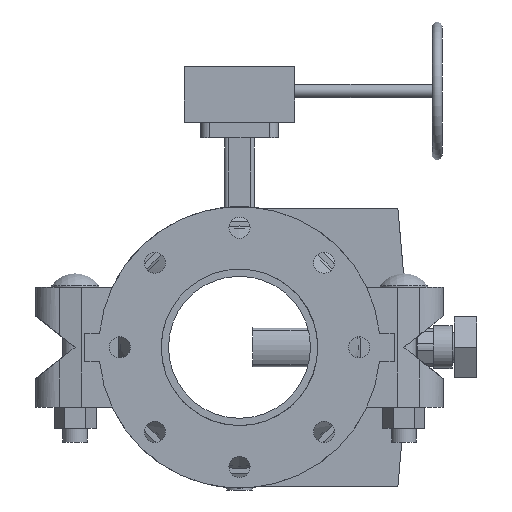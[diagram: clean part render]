
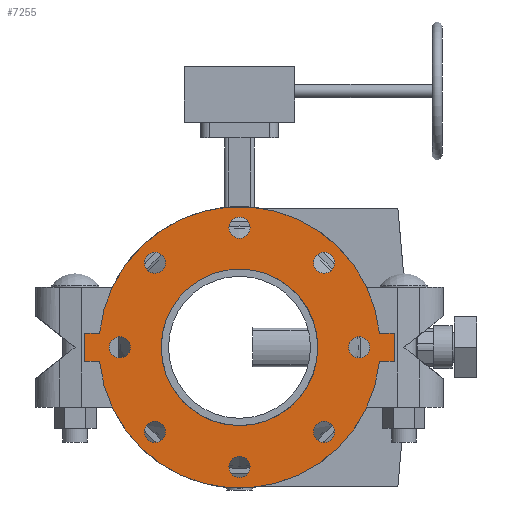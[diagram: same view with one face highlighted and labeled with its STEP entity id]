
A CAD part, front view. The second image highlights one B-rep face of the part: STEP entity #7255.
In plain terms, the highlighted planar face has unit normal (0, -1, 0) as drawn and (0, 0, -1) by its records, which use the part's own axes.
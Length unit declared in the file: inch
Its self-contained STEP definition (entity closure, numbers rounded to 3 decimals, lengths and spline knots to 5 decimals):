
#188=FACE_BOUND('',#922,.T.);
#189=FACE_BOUND('',#923,.T.);
#190=FACE_BOUND('',#924,.T.);
#191=FACE_BOUND('',#925,.T.);
#192=FACE_BOUND('',#926,.T.);
#193=FACE_BOUND('',#927,.T.);
#194=FACE_BOUND('',#928,.T.);
#195=FACE_BOUND('',#929,.T.);
#196=FACE_BOUND('',#930,.T.);
#278=PLANE('',#7868);
#524=FACE_OUTER_BOUND('',#921,.T.);
#921=EDGE_LOOP('',(#4666,#4667,#4668,#4669,#4670,#4671,#4672,#4673));
#922=EDGE_LOOP('',(#4674));
#923=EDGE_LOOP('',(#4675));
#924=EDGE_LOOP('',(#4676));
#925=EDGE_LOOP('',(#4677));
#926=EDGE_LOOP('',(#4678));
#927=EDGE_LOOP('',(#4679));
#928=EDGE_LOOP('',(#4680));
#929=EDGE_LOOP('',(#4681));
#930=EDGE_LOOP('',(#4682,#4683));
#1408=LINE('',#10997,#1949);
#1409=LINE('',#10999,#1950);
#1410=LINE('',#11001,#1951);
#1411=LINE('',#11005,#1952);
#1412=LINE('',#11007,#1953);
#1413=LINE('',#11008,#1954);
#1949=VECTOR('',#8759,0.3937);
#1950=VECTOR('',#8760,0.3937);
#1951=VECTOR('',#8761,0.3937);
#1952=VECTOR('',#8764,0.3937);
#1953=VECTOR('',#8765,0.3937);
#1954=VECTOR('',#8766,0.3937);
#2483=CIRCLE('',#7846,0.375);
#2485=CIRCLE('',#7849,0.375);
#2487=CIRCLE('',#7852,0.375);
#2489=CIRCLE('',#7855,0.375);
#2491=CIRCLE('',#7858,0.375);
#2493=CIRCLE('',#7861,0.375);
#2495=CIRCLE('',#7864,0.375);
#2497=CIRCLE('',#7867,0.375);
#2498=CIRCLE('',#7869,5.);
#2499=CIRCLE('',#7870,5.);
#2500=CIRCLE('',#7871,2.7815);
#2501=CIRCLE('',#7872,2.7815);
#2896=VERTEX_POINT('',#10947);
#2898=VERTEX_POINT('',#10953);
#2900=VERTEX_POINT('',#10959);
#2902=VERTEX_POINT('',#10965);
#2904=VERTEX_POINT('',#10971);
#2906=VERTEX_POINT('',#10977);
#2908=VERTEX_POINT('',#10983);
#2910=VERTEX_POINT('',#10989);
#2911=VERTEX_POINT('',#10993);
#2912=VERTEX_POINT('',#10994);
#2913=VERTEX_POINT('',#10996);
#2914=VERTEX_POINT('',#10998);
#2915=VERTEX_POINT('',#11000);
#2916=VERTEX_POINT('',#11002);
#2917=VERTEX_POINT('',#11004);
#2918=VERTEX_POINT('',#11006);
#2919=VERTEX_POINT('',#11009);
#2920=VERTEX_POINT('',#11010);
#3598=EDGE_CURVE('',#2896,#2896,#2483,.T.);
#3601=EDGE_CURVE('',#2898,#2898,#2485,.T.);
#3604=EDGE_CURVE('',#2900,#2900,#2487,.T.);
#3607=EDGE_CURVE('',#2902,#2902,#2489,.T.);
#3610=EDGE_CURVE('',#2904,#2904,#2491,.T.);
#3613=EDGE_CURVE('',#2906,#2906,#2493,.T.);
#3616=EDGE_CURVE('',#2908,#2908,#2495,.T.);
#3619=EDGE_CURVE('',#2910,#2910,#2497,.T.);
#3620=EDGE_CURVE('',#2911,#2912,#2498,.T.);
#3621=EDGE_CURVE('',#2912,#2913,#1408,.T.);
#3622=EDGE_CURVE('',#2913,#2914,#1409,.T.);
#3623=EDGE_CURVE('',#2914,#2915,#1410,.T.);
#3624=EDGE_CURVE('',#2915,#2916,#2499,.T.);
#3625=EDGE_CURVE('',#2916,#2917,#1411,.T.);
#3626=EDGE_CURVE('',#2917,#2918,#1412,.T.);
#3627=EDGE_CURVE('',#2918,#2911,#1413,.T.);
#3628=EDGE_CURVE('',#2919,#2920,#2500,.T.);
#3629=EDGE_CURVE('',#2920,#2919,#2501,.T.);
#4666=ORIENTED_EDGE('',*,*,#3620,.T.);
#4667=ORIENTED_EDGE('',*,*,#3621,.T.);
#4668=ORIENTED_EDGE('',*,*,#3622,.T.);
#4669=ORIENTED_EDGE('',*,*,#3623,.T.);
#4670=ORIENTED_EDGE('',*,*,#3624,.T.);
#4671=ORIENTED_EDGE('',*,*,#3625,.T.);
#4672=ORIENTED_EDGE('',*,*,#3626,.T.);
#4673=ORIENTED_EDGE('',*,*,#3627,.T.);
#4674=ORIENTED_EDGE('',*,*,#3598,.T.);
#4675=ORIENTED_EDGE('',*,*,#3601,.T.);
#4676=ORIENTED_EDGE('',*,*,#3604,.T.);
#4677=ORIENTED_EDGE('',*,*,#3607,.T.);
#4678=ORIENTED_EDGE('',*,*,#3610,.T.);
#4679=ORIENTED_EDGE('',*,*,#3613,.T.);
#4680=ORIENTED_EDGE('',*,*,#3616,.T.);
#4681=ORIENTED_EDGE('',*,*,#3619,.T.);
#4682=ORIENTED_EDGE('',*,*,#3628,.T.);
#4683=ORIENTED_EDGE('',*,*,#3629,.T.);
#7255=ADVANCED_FACE('',(#524,#188,#189,#190,#191,#192,#193,#194,#195,#196),
#278,.T.);
#7846=AXIS2_PLACEMENT_3D('',#10949,#8704,#8705);
#7849=AXIS2_PLACEMENT_3D('',#10955,#8711,#8712);
#7852=AXIS2_PLACEMENT_3D('',#10961,#8718,#8719);
#7855=AXIS2_PLACEMENT_3D('',#10967,#8725,#8726);
#7858=AXIS2_PLACEMENT_3D('',#10973,#8732,#8733);
#7861=AXIS2_PLACEMENT_3D('',#10979,#8739,#8740);
#7864=AXIS2_PLACEMENT_3D('',#10985,#8746,#8747);
#7867=AXIS2_PLACEMENT_3D('',#10991,#8753,#8754);
#7868=AXIS2_PLACEMENT_3D('',#10992,#8755,#8756);
#7869=AXIS2_PLACEMENT_3D('',#10995,#8757,#8758);
#7870=AXIS2_PLACEMENT_3D('',#11003,#8762,#8763);
#7871=AXIS2_PLACEMENT_3D('',#11011,#8767,#8768);
#7872=AXIS2_PLACEMENT_3D('',#11012,#8769,#8770);
#8704=DIRECTION('center_axis',(0.,0.,1.));
#8705=DIRECTION('ref_axis',(-0.707,0.707,0.));
#8711=DIRECTION('center_axis',(0.,0.,1.));
#8712=DIRECTION('ref_axis',(0.,1.,0.));
#8718=DIRECTION('center_axis',(0.,0.,1.));
#8719=DIRECTION('ref_axis',(0.707,0.707,0.));
#8725=DIRECTION('center_axis',(0.,0.,1.));
#8726=DIRECTION('ref_axis',(1.,0.,0.));
#8732=DIRECTION('center_axis',(0.,0.,1.));
#8733=DIRECTION('ref_axis',(0.707,-0.707,0.));
#8739=DIRECTION('center_axis',(0.,0.,1.));
#8740=DIRECTION('ref_axis',(0.,-1.,0.));
#8746=DIRECTION('center_axis',(0.,0.,1.));
#8747=DIRECTION('ref_axis',(-0.707,-0.707,0.));
#8753=DIRECTION('center_axis',(0.,0.,1.));
#8754=DIRECTION('ref_axis',(-1.,0.,0.));
#8755=DIRECTION('center_axis',(0.,0.,-1.));
#8756=DIRECTION('ref_axis',(-1.,0.,0.));
#8757=DIRECTION('center_axis',(0.,0.,-1.));
#8758=DIRECTION('ref_axis',(-1.,0.,0.));
#8759=DIRECTION('',(0.,1.,0.));
#8760=DIRECTION('',(1.,0.,0.));
#8761=DIRECTION('',(0.,-1.,0.));
#8762=DIRECTION('center_axis',(0.,0.,-1.));
#8763=DIRECTION('ref_axis',(-1.,0.,0.));
#8764=DIRECTION('',(0.,-1.,0.));
#8765=DIRECTION('',(-1.,0.,0.));
#8766=DIRECTION('',(0.,1.,0.));
#8767=DIRECTION('center_axis',(0.,0.,1.));
#8768=DIRECTION('ref_axis',(-1.,0.,0.));
#8769=DIRECTION('center_axis',(0.,0.,1.));
#8770=DIRECTION('ref_axis',(-1.,0.,0.));
#10947=CARTESIAN_POINT('',(-2.74004,2.74004,-0.5));
#10949=CARTESIAN_POINT('Origin',(-3.0052,3.0052,-0.5));
#10953=CARTESIAN_POINT('',(0.,3.875,-0.5));
#10955=CARTESIAN_POINT('Origin',(0.,4.25,-0.5));
#10959=CARTESIAN_POINT('',(2.74004,2.74004,-0.5));
#10961=CARTESIAN_POINT('Origin',(3.0052,3.0052,-0.5));
#10965=CARTESIAN_POINT('',(3.875,0.,-0.5));
#10967=CARTESIAN_POINT('Origin',(4.25,0.,-0.5));
#10971=CARTESIAN_POINT('',(2.74004,-2.74004,-0.5));
#10973=CARTESIAN_POINT('Origin',(3.0052,-3.0052,-0.5));
#10977=CARTESIAN_POINT('',(0.,-3.875,-0.5));
#10979=CARTESIAN_POINT('Origin',(0.,-4.25,-0.5));
#10983=CARTESIAN_POINT('',(-2.74004,-2.74004,-0.5));
#10985=CARTESIAN_POINT('Origin',(-3.0052,-3.0052,-0.5));
#10989=CARTESIAN_POINT('',(-3.875,0.,-0.5));
#10991=CARTESIAN_POINT('Origin',(-4.25,0.,-0.5));
#10992=CARTESIAN_POINT('Origin',(0.,0.,-0.5));
#10993=CARTESIAN_POINT('',(-0.5,-4.97494,-0.5));
#10994=CARTESIAN_POINT('',(-0.5,4.97494,-0.5));
#10995=CARTESIAN_POINT('Origin',(0.,0.,-0.5));
#10996=CARTESIAN_POINT('',(-0.5,5.5,-0.5));
#10997=CARTESIAN_POINT('',(-0.5,-5.5,-0.5));
#10998=CARTESIAN_POINT('',(0.5,5.5,-0.5));
#10999=CARTESIAN_POINT('',(-0.5,5.5,-0.5));
#11000=CARTESIAN_POINT('',(0.5,4.97494,-0.5));
#11001=CARTESIAN_POINT('',(0.5,5.5,-0.5));
#11002=CARTESIAN_POINT('',(0.5,-4.97494,-0.5));
#11003=CARTESIAN_POINT('Origin',(0.,0.,-0.5));
#11004=CARTESIAN_POINT('',(0.5,-5.5,-0.5));
#11005=CARTESIAN_POINT('',(0.5,5.5,-0.5));
#11006=CARTESIAN_POINT('',(-0.5,-5.5,-0.5));
#11007=CARTESIAN_POINT('',(0.5,-5.5,-0.5));
#11008=CARTESIAN_POINT('',(-0.5,-5.5,-0.5));
#11009=CARTESIAN_POINT('',(0.5,2.73619,-0.5));
#11010=CARTESIAN_POINT('',(2.7815,0.,-0.5));
#11011=CARTESIAN_POINT('Origin',(0.,0.,-0.5));
#11012=CARTESIAN_POINT('Origin',(0.,0.,-0.5));
